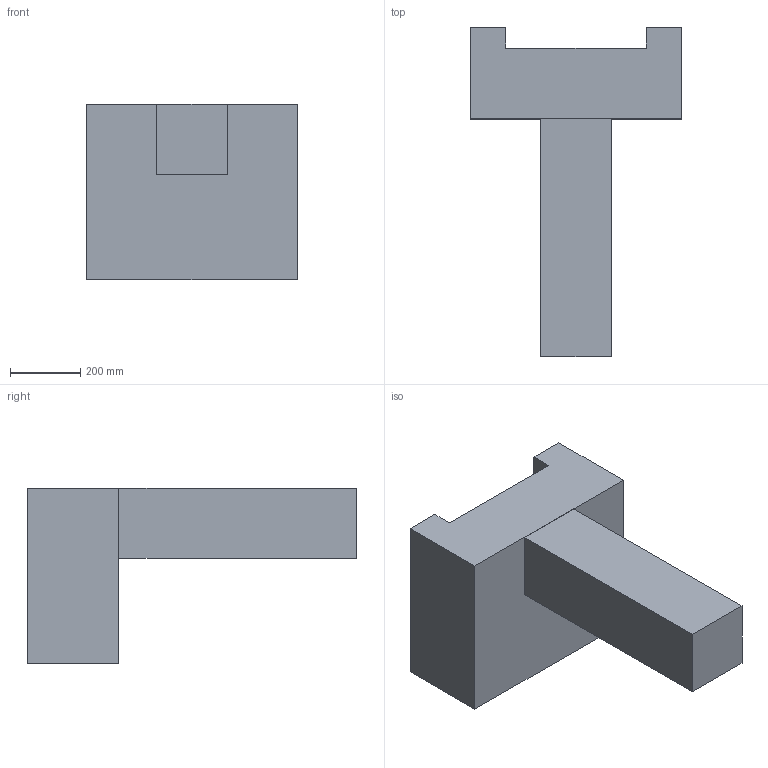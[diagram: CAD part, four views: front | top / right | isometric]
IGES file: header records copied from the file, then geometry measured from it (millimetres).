
Start section: This line is the first line of the start section. You can replacexxxxxxy these line and add as many as you want
Global section: file name: /usr2/plg/parts/_bcd/zz.iges; native system: COMPUTERVISION CADDS5 REV 5.0 GRAPHIC SYSTEM; preprocessor: CV Translator Products, Revision 1.1.3 PATCH; author: Author; organization: Organization; date: 950612.132654; units: millimetre
Bounding box: 600 x 939.24 x 500 mm (x, y, z)
Surface area: 1808939 mm2 (no closed solid volume)
Topology: 0 solids, 0 shells, 16 faces, 72 edges, 72 vertices
Faces by surface type: bspline 16
